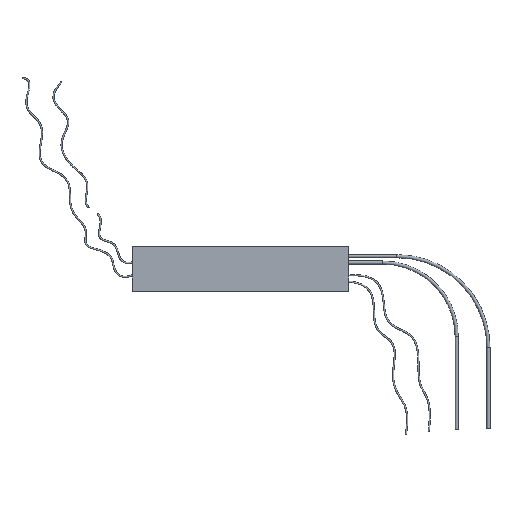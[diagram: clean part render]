
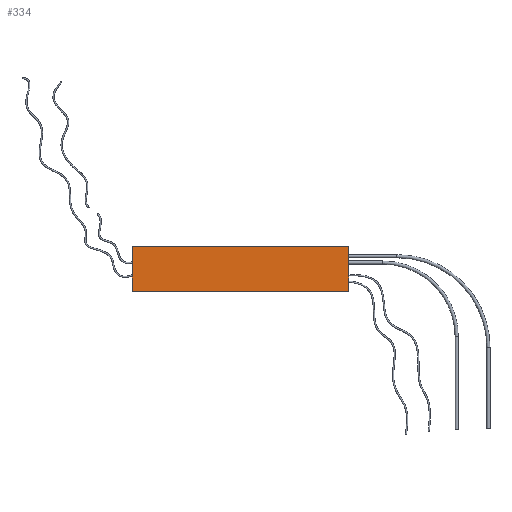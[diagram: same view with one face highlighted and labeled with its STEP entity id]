
A CAD part, top view. The second image highlights one B-rep face of the part: STEP entity #334.
In plain terms, the highlighted planar face has unit normal (0, 0, 1).
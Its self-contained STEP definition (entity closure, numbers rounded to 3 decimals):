
#18=LINE('',#2367,#30);
#21=LINE('',#2372,#33);
#23=LINE('',#2376,#35);
#25=LINE('',#2379,#37);
#30=VECTOR('',#449,10.);
#33=VECTOR('',#454,10.);
#35=VECTOR('',#458,10.);
#37=VECTOR('',#462,10.);
#63=PLANE('',#378);
#101=FACE_OUTER_BOUND('',#137,.T.);
#137=EDGE_LOOP('',(#284,#285,#286,#287));
#176=VERTEX_POINT('',#2365);
#177=VERTEX_POINT('',#2366);
#178=VERTEX_POINT('',#2371);
#179=VERTEX_POINT('',#2375);
#208=EDGE_CURVE('',#176,#177,#18,.T.);
#211=EDGE_CURVE('',#177,#178,#21,.T.);
#213=EDGE_CURVE('',#178,#179,#23,.T.);
#215=EDGE_CURVE('',#179,#176,#25,.T.);
#284=ORIENTED_EDGE('',*,*,#208,.F.);
#285=ORIENTED_EDGE('',*,*,#215,.F.);
#286=ORIENTED_EDGE('',*,*,#213,.F.);
#287=ORIENTED_EDGE('',*,*,#211,.F.);
#334=ADVANCED_FACE('',(#101),#63,.T.);
#378=AXIS2_PLACEMENT_3D('',#2380,#463,#464);
#449=DIRECTION('',(0.,-1.,0.));
#454=DIRECTION('',(-1.,0.,0.));
#458=DIRECTION('',(0.,1.,0.));
#462=DIRECTION('',(1.,0.,0.));
#463=DIRECTION('center_axis',(0.,0.,1.));
#464=DIRECTION('ref_axis',(1.,0.,0.));
#2365=CARTESIAN_POINT('',(17.,3.5,2.));
#2366=CARTESIAN_POINT('',(17.,-3.5,2.));
#2367=CARTESIAN_POINT('',(17.,3.5,2.));
#2371=CARTESIAN_POINT('',(-17.,-3.5,2.));
#2372=CARTESIAN_POINT('',(17.,-3.5,2.));
#2375=CARTESIAN_POINT('',(-17.,3.5,2.));
#2376=CARTESIAN_POINT('',(-17.,-3.5,2.));
#2379=CARTESIAN_POINT('',(-17.,3.5,2.));
#2380=CARTESIAN_POINT('Origin',(0.,0.,2.));
